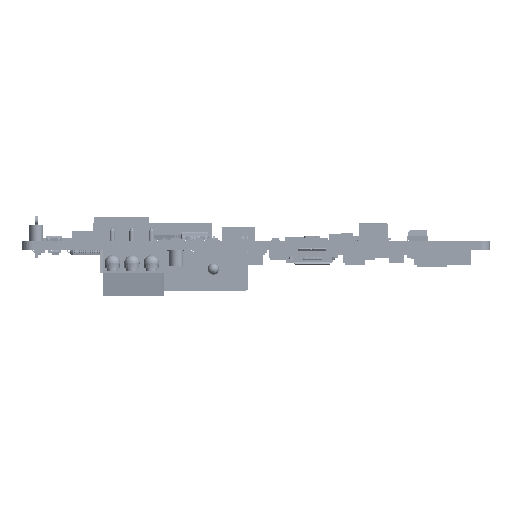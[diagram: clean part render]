
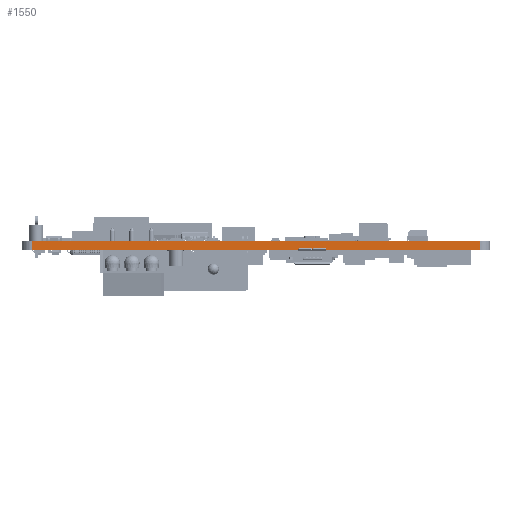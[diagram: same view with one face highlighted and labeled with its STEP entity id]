
A CAD part, front view. The second image highlights one B-rep face of the part: STEP entity #1550.
In plain terms, the highlighted planar face has unit normal (0, -1, 0).
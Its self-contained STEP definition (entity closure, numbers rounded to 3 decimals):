
#1523 = VERTEX_POINT('',#1524);
#1524 = CARTESIAN_POINT('',(79.432,-6.179,1.451));
#1531 = EDGE_CURVE('',#1532,#1523,#1534,.T.);
#1532 = VERTEX_POINT('',#1533);
#1533 = CARTESIAN_POINT('',(79.432,-6.179,0.));
#1534 = LINE('',#1535,#1536);
#1535 = CARTESIAN_POINT('',(79.432,-6.179,0.));
#1536 = VECTOR('',#1537,1.);
#1537 = DIRECTION('',(0.,0.,1.));
#1550 = ADVANCED_FACE('',(#1551),#1576,.T.);
#1551 = FACE_BOUND('',#1552,.T.);
#1552 = EDGE_LOOP('',(#1553,#1554,#1562,#1570));
#1553 = ORIENTED_EDGE('',*,*,#1531,.T.);
#1554 = ORIENTED_EDGE('',*,*,#1555,.T.);
#1555 = EDGE_CURVE('',#1523,#1556,#1558,.T.);
#1556 = VERTEX_POINT('',#1557);
#1557 = CARTESIAN_POINT('',(-0.832,-6.179,1.451));
#1558 = LINE('',#1559,#1560);
#1559 = CARTESIAN_POINT('',(79.432,-6.179,1.451));
#1560 = VECTOR('',#1561,1.);
#1561 = DIRECTION('',(-1.,0.,0.));
#1562 = ORIENTED_EDGE('',*,*,#1563,.F.);
#1563 = EDGE_CURVE('',#1564,#1556,#1566,.T.);
#1564 = VERTEX_POINT('',#1565);
#1565 = CARTESIAN_POINT('',(-0.832,-6.179,0.));
#1566 = LINE('',#1567,#1568);
#1567 = CARTESIAN_POINT('',(-0.832,-6.179,0.));
#1568 = VECTOR('',#1569,1.);
#1569 = DIRECTION('',(0.,0.,1.));
#1570 = ORIENTED_EDGE('',*,*,#1571,.F.);
#1571 = EDGE_CURVE('',#1532,#1564,#1572,.T.);
#1572 = LINE('',#1573,#1574);
#1573 = CARTESIAN_POINT('',(79.432,-6.179,0.));
#1574 = VECTOR('',#1575,1.);
#1575 = DIRECTION('',(-1.,0.,0.));
#1576 = PLANE('',#1577);
#1577 = AXIS2_PLACEMENT_3D('',#1578,#1579,#1580);
#1578 = CARTESIAN_POINT('',(79.432,-6.179,0.));
#1579 = DIRECTION('',(0.,-1.,0.));
#1580 = DIRECTION('',(-1.,0.,0.));
